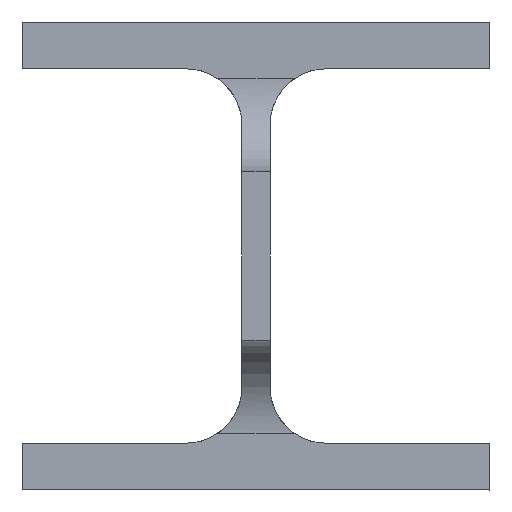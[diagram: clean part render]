
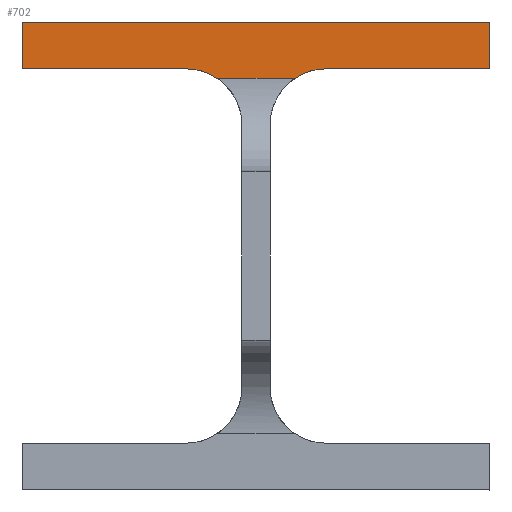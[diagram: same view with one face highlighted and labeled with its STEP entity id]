
A CAD part, front view. The second image highlights one B-rep face of the part: STEP entity #702.
In plain terms, the highlighted planar face has unit normal (0, -1, 0).
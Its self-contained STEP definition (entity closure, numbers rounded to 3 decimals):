
#64 = DIRECTION ( 'NONE',  ( -1., 0., 0. ) ) ;
#92 = CARTESIAN_POINT ( 'NONE',  ( 6876.633, 52., 2378. ) ) ;
#111 = VECTOR ( 'NONE', #128, 1000. ) ;
#128 = DIRECTION ( 'NONE',  ( 1., 0., 0. ) ) ;
#197 = CARTESIAN_POINT ( 'NONE',  ( 6870., 52., 2368. ) ) ;
#389 = CARTESIAN_POINT ( 'NONE',  ( 6935., 52., 2380. ) ) ;
#541 = CIRCLE ( 'NONE', #3305, 12. ) ;
#544 = VECTOR ( 'NONE', #1758, 1000. ) ;
#545 = VERTEX_POINT ( 'NONE', #3702 ) ;
#556 = CIRCLE ( 'NONE', #682, 12. ) ;
#579 = LINE ( 'NONE', #2087, #544 ) ;
#598 = CARTESIAN_POINT ( 'NONE',  ( 11000., 52., 2390. ) ) ;
#672 = VECTOR ( 'NONE', #2793, 1000. ) ;
#682 = AXIS2_PLACEMENT_3D ( 'NONE', #1765, #2653, #1153 ) ;
#702 = ADVANCED_FACE ( 'NONE', ( #841 ), #876, .T. ) ;
#745 = ORIENTED_EDGE ( 'NONE', *, *, #3507, .T. ) ;
#841 = FACE_OUTER_BOUND ( 'NONE', #3258, .T. ) ;
#876 = PLANE ( 'NONE',  #2565 ) ;
#900 = ORIENTED_EDGE ( 'NONE', *, *, #2282, .T. ) ;
#991 = LINE ( 'NONE', #2171, #111 ) ;
#1070 = VERTEX_POINT ( 'NONE', #92 ) ;
#1136 = CARTESIAN_POINT ( 'NONE',  ( 6870., 52., 2380. ) ) ;
#1153 = DIRECTION ( 'NONE',  ( 0., 0., -1. ) ) ;
#1269 = EDGE_CURVE ( 'NONE', #545, #3850, #991, .T. ) ;
#1298 = VECTOR ( 'NONE', #2952, 1000. ) ;
#1492 = VERTEX_POINT ( 'NONE', #3837 ) ;
#1758 = DIRECTION ( 'NONE',  ( -1., 0., 0. ) ) ;
#1765 = CARTESIAN_POINT ( 'NONE',  ( 6900., 52., 2368. ) ) ;
#1766 = ORIENTED_EDGE ( 'NONE', *, *, #3387, .T. ) ;
#1898 = EDGE_CURVE ( 'NONE', #2415, #3809, #2496, .T. ) ;
#1924 = VECTOR ( 'NONE', #64, 1000. ) ;
#2031 = DIRECTION ( 'NONE',  ( 0., -1., 0. ) ) ;
#2087 = CARTESIAN_POINT ( 'NONE',  ( 11000., 52., 2378. ) ) ;
#2100 = CARTESIAN_POINT ( 'NONE',  ( 6835., 52., 2390. ) ) ;
#2111 = ORIENTED_EDGE ( 'NONE', *, *, #2569, .T. ) ;
#2171 = CARTESIAN_POINT ( 'NONE',  ( 6900., 52., 2380. ) ) ;
#2245 = DIRECTION ( 'NONE',  ( 0., 0., -1. ) ) ;
#2282 = EDGE_CURVE ( 'NONE', #2943, #1492, #2762, .T. ) ;
#2306 = DIRECTION ( 'NONE',  ( 0., 1., 0. ) ) ;
#2308 = ORIENTED_EDGE ( 'NONE', *, *, #1898, .T. ) ;
#2415 = VERTEX_POINT ( 'NONE', #2605 ) ;
#2440 = CARTESIAN_POINT ( 'NONE',  ( 6893.367, 52., 2378. ) ) ;
#2496 = LINE ( 'NONE', #2773, #3319 ) ;
#2499 = EDGE_CURVE ( 'NONE', #3438, #1070, #579, .T. ) ;
#2565 = AXIS2_PLACEMENT_3D ( 'NONE', #598, #2031, #3234 ) ;
#2569 = EDGE_CURVE ( 'NONE', #3809, #1070, #541, .T. ) ;
#2602 = ORIENTED_EDGE ( 'NONE', *, *, #3820, .T. ) ;
#2605 = CARTESIAN_POINT ( 'NONE',  ( 6835., 52., 2380. ) ) ;
#2653 = DIRECTION ( 'NONE',  ( 0., 1., 0. ) ) ;
#2670 = CARTESIAN_POINT ( 'NONE',  ( 6935., 52., 2380. ) ) ;
#2675 = LINE ( 'NONE', #2100, #1298 ) ;
#2762 = LINE ( 'NONE', #3391, #1924 ) ;
#2773 = CARTESIAN_POINT ( 'NONE',  ( 6835., 52., 2380. ) ) ;
#2793 = DIRECTION ( 'NONE',  ( 0., 0., 1. ) ) ;
#2805 = ORIENTED_EDGE ( 'NONE', *, *, #1269, .T. ) ;
#2943 = VERTEX_POINT ( 'NONE', #3770 ) ;
#2952 = DIRECTION ( 'NONE',  ( 0., 0., -1. ) ) ;
#3047 = LINE ( 'NONE', #389, #672 ) ;
#3234 = DIRECTION ( 'NONE',  ( 0., 0., -1. ) ) ;
#3258 = EDGE_LOOP ( 'NONE', ( #2602, #2805, #745, #900, #1766, #2308, #2111, #3296 ) ) ;
#3296 = ORIENTED_EDGE ( 'NONE', *, *, #2499, .F. ) ;
#3305 = AXIS2_PLACEMENT_3D ( 'NONE', #197, #2306, #2245 ) ;
#3319 = VECTOR ( 'NONE', #3342, 1000. ) ;
#3342 = DIRECTION ( 'NONE',  ( 1., 0., 0. ) ) ;
#3387 = EDGE_CURVE ( 'NONE', #1492, #2415, #2675, .T. ) ;
#3391 = CARTESIAN_POINT ( 'NONE',  ( 6935., 52., 2390. ) ) ;
#3438 = VERTEX_POINT ( 'NONE', #2440 ) ;
#3507 = EDGE_CURVE ( 'NONE', #3850, #2943, #3047, .T. ) ;
#3702 = CARTESIAN_POINT ( 'NONE',  ( 6900., 52., 2380. ) ) ;
#3770 = CARTESIAN_POINT ( 'NONE',  ( 6935., 52., 2390. ) ) ;
#3809 = VERTEX_POINT ( 'NONE', #1136 ) ;
#3820 = EDGE_CURVE ( 'NONE', #3438, #545, #556, .T. ) ;
#3837 = CARTESIAN_POINT ( 'NONE',  ( 6835., 52., 2390. ) ) ;
#3850 = VERTEX_POINT ( 'NONE', #2670 ) ;
